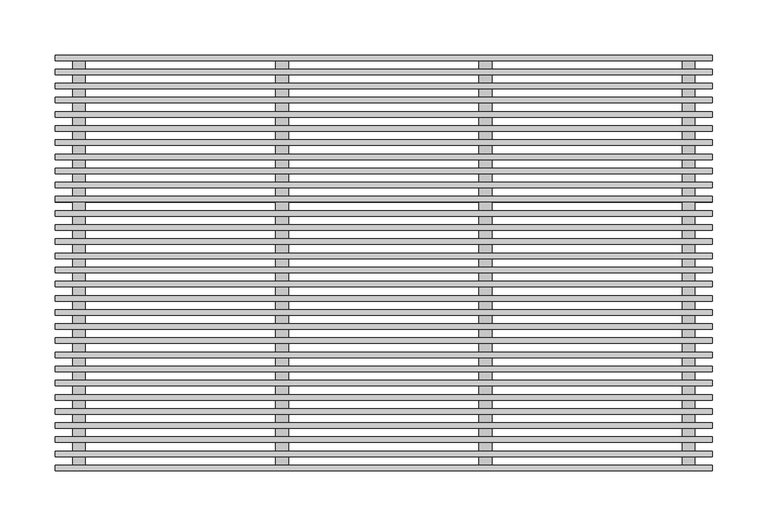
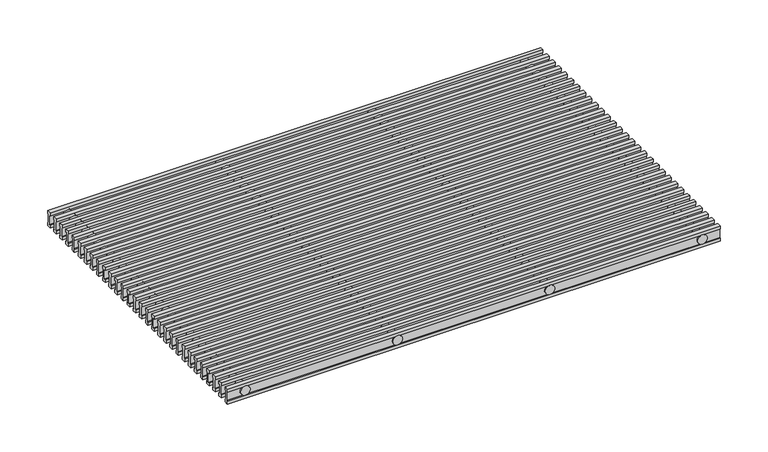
"""IFC4 building model written with IfcOpenShell, lengths in millimetres: proxy geometry, ♦ : РАП_Алюминиевая продольная/ Белый RAL 9016."""

from ifc_helpers import new_model, si_unit, point, frame, frame_2d, origin, place, context, project, spatial, polyline, circle_curve, trimmed, segment, composite_curve, outline, extrude, source, transform, mapped, element, save


def mechanical_equipment_ec1114a2(model_context):
    return source(origin(), model_context, "Body", "SweptSolid", [
        extrude(outline(polyline([(-170.9517241, 0.0), (-170.9517241, -3.86), (-172.2017241, -3.86), (-172.2017241, -15.44), (-170.9517241, -15.44), (-170.9517241, -19.3), (-175.9517241, -19.3), (-175.9517241, -15.44), (-174.7017241, -15.44), (-174.7017241, -3.86), (-175.9517241, -3.86), (-175.9517241, 0.0), (-170.9517241, 0.0)])), frame((1.2, 0.0, 0.0), z_axis=(1.0, 0.0, 0.0), x_axis=(0.0, 1.0, 0.0)), (0.0, 0.0, 1.0), 597.6),
        extrude(outline(polyline([(-158.1034483, 0.0), (-158.1034483, -3.86), (-159.3534483, -3.86), (-159.3534483, -15.44), (-158.1034483, -15.44), (-158.1034483, -19.3), (-163.1034483, -19.3), (-163.1034483, -15.44), (-161.8534483, -15.44), (-161.8534483, -3.86), (-163.1034483, -3.86), (-163.1034483, 0.0), (-158.1034483, 0.0)])), frame((1.2, 0.0, 0.0), z_axis=(1.0, 0.0, 0.0), x_axis=(0.0, 1.0, 0.0)), (0.0, 0.0, 1.0), 597.6),
        extrude(outline(polyline([(-145.2551724, 0.0), (-145.2551724, -3.86), (-146.5051724, -3.86), (-146.5051724, -15.44), (-145.2551724, -15.44), (-145.2551724, -19.3), (-150.2551724, -19.3), (-150.2551724, -15.44), (-149.0051724, -15.44), (-149.0051724, -3.86), (-150.2551724, -3.86), (-150.2551724, 0.0), (-145.2551724, 0.0)])), frame((1.2, 0.0, 0.0), z_axis=(1.0, 0.0, 0.0), x_axis=(0.0, 1.0, 0.0)), (0.0, 0.0, 1.0), 597.6),
        extrude(outline(polyline([(-132.4068966, 0.0), (-132.4068966, -3.86), (-133.6568966, -3.86), (-133.6568966, -15.44), (-132.4068966, -15.44), (-132.4068966, -19.3), (-137.4068966, -19.3), (-137.4068966, -15.44), (-136.1568966, -15.44), (-136.1568966, -3.86), (-137.4068966, -3.86), (-137.4068966, 0.0), (-132.4068966, 0.0)])), frame((1.2, 0.0, 0.0), z_axis=(1.0, 0.0, 0.0), x_axis=(0.0, 1.0, 0.0)), (0.0, 0.0, 1.0), 597.6),
        extrude(outline(polyline([(-119.5586207, 0.0), (-119.5586207, -3.86), (-120.8086207, -3.86), (-120.8086207, -15.44), (-119.5586207, -15.44), (-119.5586207, -19.3), (-124.5586207, -19.3), (-124.5586207, -15.44), (-123.3086207, -15.44), (-123.3086207, -3.86), (-124.5586207, -3.86), (-124.5586207, 0.0), (-119.5586207, 0.0)])), frame((1.2, 0.0, 0.0), z_axis=(1.0, 0.0, 0.0), x_axis=(0.0, 1.0, 0.0)), (0.0, 0.0, 1.0), 597.6),
        extrude(outline(polyline([(-106.7103448, 0.0), (-106.7103448, -3.86), (-107.9603448, -3.86), (-107.9603448, -15.44), (-106.7103448, -15.44), (-106.7103448, -19.3), (-111.7103448, -19.3), (-111.7103448, -15.44), (-110.4603448, -15.44), (-110.4603448, -3.86), (-111.7103448, -3.86), (-111.7103448, 0.0), (-106.7103448, 0.0)])), frame((1.2, 0.0, 0.0), z_axis=(1.0, 0.0, 0.0), x_axis=(0.0, 1.0, 0.0)), (0.0, 0.0, 1.0), 597.6),
        extrude(outline(polyline([(-93.862069, 0.0), (-93.862069, -3.86), (-95.112069, -3.86), (-95.112069, -15.44), (-93.862069, -15.44), (-93.862069, -19.3), (-98.862069, -19.3), (-98.862069, -15.44), (-97.612069, -15.44), (-97.612069, -3.86), (-98.862069, -3.86), (-98.862069, 0.0), (-93.862069, 0.0)])), frame((1.2, 0.0, 0.0), z_axis=(1.0, 0.0, 0.0), x_axis=(0.0, 1.0, 0.0)), (0.0, 0.0, 1.0), 597.6),
        extrude(outline(polyline([(-81.0137931, 0.0), (-81.0137931, -3.86), (-82.2637931, -3.86), (-82.2637931, -15.44), (-81.0137931, -15.44), (-81.0137931, -19.3), (-86.0137931, -19.3), (-86.0137931, -15.44), (-84.7637931, -15.44), (-84.7637931, -3.86), (-86.0137931, -3.86), (-86.0137931, 0.0), (-81.0137931, 0.0)])), frame((1.2, 0.0, 0.0), z_axis=(1.0, 0.0, 0.0), x_axis=(0.0, 1.0, 0.0)), (0.0, 0.0, 1.0), 597.6),
        extrude(outline(polyline([(-68.1655172, 0.0), (-68.1655172, -3.86), (-69.4155172, -3.86), (-69.4155172, -15.44), (-68.1655172, -15.44), (-68.1655172, -19.3), (-73.1655172, -19.3), (-73.1655172, -15.44), (-71.9155172, -15.44), (-71.9155172, -3.86), (-73.1655172, -3.86), (-73.1655172, 0.0), (-68.1655172, 0.0)])), frame((1.2, 0.0, 0.0), z_axis=(1.0, 0.0, 0.0), x_axis=(0.0, 1.0, 0.0)), (0.0, 0.0, 1.0), 597.6),
        extrude(outline(polyline([(-55.3172414, 0.0), (-55.3172414, -3.86), (-56.5672414, -3.86), (-56.5672414, -15.44), (-55.3172414, -15.44), (-55.3172414, -19.3), (-60.3172414, -19.3), (-60.3172414, -15.44), (-59.0672414, -15.44), (-59.0672414, -3.86), (-60.3172414, -3.86), (-60.3172414, 0.0), (-55.3172414, 0.0)])), frame((1.2, 0.0, 0.0), z_axis=(1.0, 0.0, 0.0), x_axis=(0.0, 1.0, 0.0)), (0.0, 0.0, 1.0), 597.6),
        extrude(outline(polyline([(-42.4689655, 0.0), (-42.4689655, -3.86), (-43.7189655, -3.86), (-43.7189655, -15.44), (-42.4689655, -15.44), (-42.4689655, -19.3), (-47.4689655, -19.3), (-47.4689655, -15.44), (-46.2189655, -15.44), (-46.2189655, -3.86), (-47.4689655, -3.86), (-47.4689655, 0.0), (-42.4689655, 0.0)])), frame((1.2, 0.0, 0.0), z_axis=(1.0, 0.0, 0.0), x_axis=(0.0, 1.0, 0.0)), (0.0, 0.0, 1.0), 597.6),
        extrude(outline(polyline([(-29.6206897, 0.0), (-29.6206897, -3.86), (-30.8706897, -3.86), (-30.8706897, -15.44), (-29.6206897, -15.44), (-29.6206897, -19.3), (-34.6206897, -19.3), (-34.6206897, -15.44), (-33.3706897, -15.44), (-33.3706897, -3.86), (-34.6206897, -3.86), (-34.6206897, 0.0), (-29.6206897, 0.0)])), frame((1.2, 0.0, 0.0), z_axis=(1.0, 0.0, 0.0), x_axis=(0.0, 1.0, 0.0)), (0.0, 0.0, 1.0), 597.6),
        extrude(outline(polyline([(-16.7724138, 0.0), (-16.7724138, -3.86), (-18.0224138, -3.86), (-18.0224138, -15.44), (-16.7724138, -15.44), (-16.7724138, -19.3), (-21.7724138, -19.3), (-21.7724138, -15.44), (-20.5224138, -15.44), (-20.5224138, -3.86), (-21.7724138, -3.86), (-21.7724138, 0.0), (-16.7724138, 0.0)])), frame((1.2, 0.0, 0.0), z_axis=(1.0, 0.0, 0.0), x_axis=(0.0, 1.0, 0.0)), (0.0, 0.0, 1.0), 597.6),
        extrude(outline(polyline([(-3.9241379, 0.0), (-3.9241379, -3.86), (-5.1741379, -3.86), (-5.1741379, -15.44), (-3.9241379, -15.44), (-3.9241379, -19.3), (-8.9241379, -19.3), (-8.9241379, -15.44), (-7.6741379, -15.44), (-7.6741379, -3.86), (-8.9241379, -3.86), (-8.9241379, 0.0), (-3.9241379, 0.0)])), frame((1.2, 0.0, 0.0), z_axis=(1.0, 0.0, 0.0), x_axis=(0.0, 1.0, 0.0)), (0.0, 0.0, 1.0), 597.6),
        extrude(outline(polyline([(8.9241379, 0.0), (8.9241379, -3.86), (7.6741379, -3.86), (7.6741379, -15.44), (8.9241379, -15.44), (8.9241379, -19.3), (3.9241379, -19.3), (3.9241379, -15.44), (5.1741379, -15.44), (5.1741379, -3.86), (3.9241379, -3.86), (3.9241379, 0.0), (8.9241379, 0.0)])), frame((1.2, 0.0, 0.0), z_axis=(1.0, 0.0, 0.0), x_axis=(0.0, 1.0, 0.0)), (0.0, 0.0, 1.0), 597.6),
        extrude(outline(polyline([(21.7724138, 0.0), (21.7724138, -3.86), (20.5224138, -3.86), (20.5224138, -15.44), (21.7724138, -15.44), (21.7724138, -19.3), (16.7724138, -19.3), (16.7724138, -15.44), (18.0224138, -15.44), (18.0224138, -3.86), (16.7724138, -3.86), (16.7724138, 0.0), (21.7724138, 0.0)])), frame((1.2, 0.0, 0.0), z_axis=(1.0, 0.0, 0.0), x_axis=(0.0, 1.0, 0.0)), (0.0, 0.0, 1.0), 597.6),
        extrude(outline(polyline([(34.6206897, 0.0), (34.6206897, -3.86), (33.3706897, -3.86), (33.3706897, -15.44), (34.6206897, -15.44), (34.6206897, -19.3), (29.6206897, -19.3), (29.6206897, -15.44), (30.8706897, -15.44), (30.8706897, -3.86), (29.6206897, -3.86), (29.6206897, 0.0), (34.6206897, 0.0)])), frame((1.2, 0.0, 0.0), z_axis=(1.0, 0.0, 0.0), x_axis=(0.0, 1.0, 0.0)), (0.0, 0.0, 1.0), 597.6),
        extrude(outline(polyline([(47.4689655, 0.0), (47.4689655, -3.86), (46.2189655, -3.86), (46.2189655, -15.44), (47.4689655, -15.44), (47.4689655, -19.3), (42.4689655, -19.3), (42.4689655, -15.44), (43.7189655, -15.44), (43.7189655, -3.86), (42.4689655, -3.86), (42.4689655, 0.0), (47.4689655, 0.0)])), frame((1.2, 0.0, 0.0), z_axis=(1.0, 0.0, 0.0), x_axis=(0.0, 1.0, 0.0)), (0.0, 0.0, 1.0), 597.6),
        extrude(outline(polyline([(60.3172414, 0.0), (60.3172414, -3.86), (59.0672414, -3.86), (59.0672414, -15.44), (60.3172414, -15.44), (60.3172414, -19.3), (55.3172414, -19.3), (55.3172414, -15.44), (56.5672414, -15.44), (56.5672414, -3.86), (55.3172414, -3.86), (55.3172414, 0.0), (60.3172414, 0.0)])), frame((1.2, 0.0, 0.0), z_axis=(1.0, 0.0, 0.0), x_axis=(0.0, 1.0, 0.0)), (0.0, 0.0, 1.0), 597.6),
        extrude(outline(polyline([(73.1655172, 0.0), (73.1655172, -3.86), (71.9155172, -3.86), (71.9155172, -15.44), (73.1655172, -15.44), (73.1655172, -19.3), (68.1655172, -19.3), (68.1655172, -15.44), (69.4155172, -15.44), (69.4155172, -3.86), (68.1655172, -3.86), (68.1655172, 0.0), (73.1655172, 0.0)])), frame((1.2, 0.0, 0.0), z_axis=(1.0, 0.0, 0.0), x_axis=(0.0, 1.0, 0.0)), (0.0, 0.0, 1.0), 597.6),
        extrude(outline(polyline([(86.0137931, 0.0), (86.0137931, -3.86), (84.7637931, -3.86), (84.7637931, -15.44), (86.0137931, -15.44), (86.0137931, -19.3), (81.0137931, -19.3), (81.0137931, -15.44), (82.2637931, -15.44), (82.2637931, -3.86), (81.0137931, -3.86), (81.0137931, 0.0), (86.0137931, 0.0)])), frame((1.2, 0.0, 0.0), z_axis=(1.0, 0.0, 0.0), x_axis=(0.0, 1.0, 0.0)), (0.0, 0.0, 1.0), 597.6),
        extrude(outline(polyline([(98.862069, 0.0), (98.862069, -3.86), (97.612069, -3.86), (97.612069, -15.44), (98.862069, -15.44), (98.862069, -19.3), (93.862069, -19.3), (93.862069, -15.44), (95.112069, -15.44), (95.112069, -3.86), (93.862069, -3.86), (93.862069, 0.0), (98.862069, 0.0)])), frame((1.2, 0.0, 0.0), z_axis=(1.0, 0.0, 0.0), x_axis=(0.0, 1.0, 0.0)), (0.0, 0.0, 1.0), 597.6),
        extrude(outline(composite_curve([segment(trimmed(circle_curve(frame_2d((-9.6, 392.3333333)), 5.8), [point((-9.6, 386.5333333))], [point((-9.6, 398.1333333))], False, "CARTESIAN"), True, "CONTINUOUS"), segment(trimmed(circle_curve(frame_2d((-9.6, 392.3333333)), 5.8), [point((-9.6, 398.1333333))], [point((-9.6, 386.5333333))], False, "CARTESIAN"), True, "CONTINUOUS")], self_intersect=False)), frame((0.0, -188.8, 0.0), z_axis=(0.0, 1.0, 0.0), x_axis=(0.0, 0.0, 1.0)), (0.0, 0.0, 1.0), 377.6),
        extrude(outline(composite_curve([segment(trimmed(circle_curve(frame_2d((-9.6, 207.6666667)), 5.8), [point((-9.6, 201.8666667))], [point((-9.6, 213.4666667))], False, "CARTESIAN"), True, "CONTINUOUS"), segment(trimmed(circle_curve(frame_2d((-9.6, 207.6666667)), 5.8), [point((-9.6, 213.4666667))], [point((-9.6, 201.8666667))], False, "CARTESIAN"), True, "CONTINUOUS")], self_intersect=False)), frame((0.0, -188.8, 0.0), z_axis=(0.0, 1.0, 0.0), x_axis=(0.0, 0.0, 1.0)), (0.0, 0.0, 1.0), 377.6),
        extrude(outline(composite_curve([segment(trimmed(circle_curve(frame_2d((-9.6, 577.0)), 5.8), [point((-9.6, 571.2))], [point((-9.6, 582.8))], False, "CARTESIAN"), True, "CONTINUOUS"), segment(trimmed(circle_curve(frame_2d((-9.6, 577.0)), 5.8), [point((-9.6, 582.8))], [point((-9.6, 571.2))], False, "CARTESIAN"), True, "CONTINUOUS")], self_intersect=False)), frame((0.0, -188.8, 0.0), z_axis=(0.0, 1.0, 0.0), x_axis=(0.0, 0.0, 1.0)), (0.0, 0.0, 1.0), 377.6),
        extrude(outline(composite_curve([segment(trimmed(circle_curve(frame_2d((-9.6, 23.0)), 5.8), [point((-9.6, 17.2))], [point((-9.6, 28.8))], False, "CARTESIAN"), True, "CONTINUOUS"), segment(trimmed(circle_curve(frame_2d((-9.6, 23.0)), 5.8), [point((-9.6, 28.8))], [point((-9.6, 17.2))], False, "CARTESIAN"), True, "CONTINUOUS")], self_intersect=False)), frame((0.0, -188.8, 0.0), z_axis=(0.0, 1.0, 0.0), x_axis=(0.0, 0.0, 1.0)), (0.0, 0.0, 1.0), 377.6),
        extrude(outline(polyline([(111.7103448, 0.0), (111.7103448, -3.86), (110.4603448, -3.86), (110.4603448, -15.44), (111.7103448, -15.44), (111.7103448, -19.3), (106.7103448, -19.3), (106.7103448, -15.44), (107.9603448, -15.44), (107.9603448, -3.86), (106.7103448, -3.86), (106.7103448, 0.0), (111.7103448, 0.0)])), frame((1.2, 0.0, 0.0), z_axis=(1.0, 0.0, 0.0), x_axis=(0.0, 1.0, 0.0)), (0.0, 0.0, 1.0), 597.6),
        extrude(outline(polyline([(124.5586207, 0.0), (124.5586207, -3.86), (123.3086207, -3.86), (123.3086207, -15.44), (124.5586207, -15.44), (124.5586207, -19.3), (119.5586207, -19.3), (119.5586207, -15.44), (120.8086207, -15.44), (120.8086207, -3.86), (119.5586207, -3.86), (119.5586207, 0.0), (124.5586207, 0.0)])), frame((1.2, 0.0, 0.0), z_axis=(1.0, 0.0, 0.0), x_axis=(0.0, 1.0, 0.0)), (0.0, 0.0, 1.0), 597.6),
        extrude(outline(polyline([(137.4068966, 0.0), (137.4068966, -3.86), (136.1568966, -3.86), (136.1568966, -15.44), (137.4068966, -15.44), (137.4068966, -19.3), (132.4068966, -19.3), (132.4068966, -15.44), (133.6568966, -15.44), (133.6568966, -3.86), (132.4068966, -3.86), (132.4068966, 0.0), (137.4068966, 0.0)])), frame((1.2, 0.0, 0.0), z_axis=(1.0, 0.0, 0.0), x_axis=(0.0, 1.0, 0.0)), (0.0, 0.0, 1.0), 597.6),
        extrude(outline(polyline([(150.2551724, 0.0), (150.2551724, -3.86), (149.0051724, -3.86), (149.0051724, -15.44), (150.2551724, -15.44), (150.2551724, -19.3), (145.2551724, -19.3), (145.2551724, -15.44), (146.5051724, -15.44), (146.5051724, -3.86), (145.2551724, -3.86), (145.2551724, 0.0), (150.2551724, 0.0)])), frame((1.2, 0.0, 0.0), z_axis=(1.0, 0.0, 0.0), x_axis=(0.0, 1.0, 0.0)), (0.0, 0.0, 1.0), 597.6),
        extrude(outline(polyline([(163.1034483, 0.0), (163.1034483, -3.86), (161.8534483, -3.86), (161.8534483, -15.44), (163.1034483, -15.44), (163.1034483, -19.3), (158.1034483, -19.3), (158.1034483, -15.44), (159.3534483, -15.44), (159.3534483, -3.86), (158.1034483, -3.86), (158.1034483, 0.0), (163.1034483, 0.0)])), frame((1.2, 0.0, 0.0), z_axis=(1.0, 0.0, 0.0), x_axis=(0.0, 1.0, 0.0)), (0.0, 0.0, 1.0), 597.6),
        extrude(outline(polyline([(175.9517241, 0.0), (175.9517241, -3.86), (174.7017241, -3.86), (174.7017241, -15.44), (175.9517241, -15.44), (175.9517241, -19.3), (170.9517241, -19.3), (170.9517241, -15.44), (172.2017241, -15.44), (172.2017241, -3.86), (170.9517241, -3.86), (170.9517241, 0.0), (175.9517241, 0.0)])), frame((1.2, 0.0, 0.0), z_axis=(1.0, 0.0, 0.0), x_axis=(0.0, 1.0, 0.0)), (0.0, 0.0, 1.0), 597.6),
        extrude(outline(polyline([(-183.8, 0.0), (-183.8, -3.86), (-185.05, -3.86), (-185.05, -15.44), (-183.8, -15.44), (-183.8, -19.3), (-188.8, -19.3), (-188.8, -15.44), (-187.55, -15.44), (-187.55, -3.86), (-188.8, -3.86), (-188.8, 0.0), (-183.8, 0.0)])), frame((1.2, 0.0, 0.0), z_axis=(1.0, 0.0, 0.0), x_axis=(0.0, 1.0, 0.0)), (0.0, 0.0, 1.0), 597.6),
        extrude(outline(polyline([(188.8, 0.0), (188.8, -3.86), (187.55, -3.86), (187.55, -15.44), (188.8, -15.44), (188.8, -19.3), (183.8, -19.3), (183.8, -15.44), (185.05, -15.44), (185.05, -3.86), (183.8, -3.86), (183.8, 0.0), (188.8, 0.0)])), frame((1.2, 0.0, 0.0), z_axis=(1.0, 0.0, 0.0), x_axis=(0.0, 1.0, 0.0)), (0.0, 0.0, 1.0), 597.6),
    ])


if __name__ == "__main__":
    model = new_model("IFC4")
    model_context = context("Model", 3, world=origin())
    ifc_project = project(units=[si_unit("LENGTHUNIT", "METRE", prefix="MILLI")], contexts=[model_context])
    site = spatial("IfcSite", under=ifc_project)
    building = spatial("IfcBuilding", under=site)
    placement = place(None, origin())
    mechanical_equipment_shape = mechanical_equipment_ec1114a2(model_context)
    element("IfcBuildingElementProxy", 1, Name="♦ : РАП_Алюминиевая продольная/ Белый RAL 9016", ObjectType="♦ : РАП_Алюминиевая продольная/ Белый RAL 9016", at=placement, inside=building, context=model_context, shape_type="MappedRepresentation", body=[
        mapped(mechanical_equipment_shape, transform((0.0, 0.0, 0.0), x_axis=(1.0, 0.0, 0.0), y_axis=(0.0, 1.0, 0.0), z_axis=(0.0, 0.0, 1.0))),
    ])
    save(model, "model.ifc")
